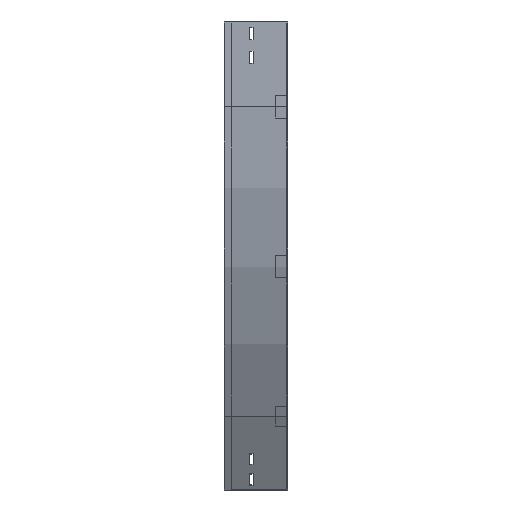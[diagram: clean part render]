
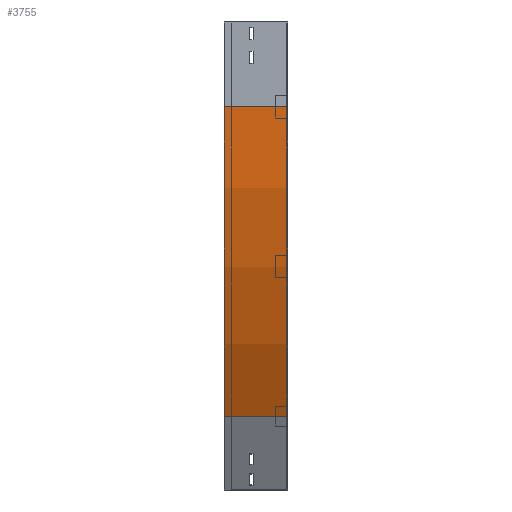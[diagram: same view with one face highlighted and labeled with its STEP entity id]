
A CAD part, left-side view. The second image highlights one B-rep face of the part: STEP entity #3755.
In plain terms, the highlighted cylindrical face has radius 1100 mm (diameter 2200 mm), a partial arc.
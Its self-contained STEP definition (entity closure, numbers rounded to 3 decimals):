
#142 = VECTOR ( 'NONE', #2936, 1000. ) ;
#579 = DIRECTION ( 'NONE',  ( 0., -1., 0. ) ) ;
#776 = CARTESIAN_POINT ( 'NONE',  ( 147.372, 112.5, -700. ) ) ;
#782 = CYLINDRICAL_SURFACE ( 'NONE', #3033, 1100. ) ;
#877 = CARTESIAN_POINT ( 'NONE',  ( 147.372, 0., -700. ) ) ;
#882 = EDGE_CURVE ( 'NONE', #3290, #3308, #2343, .T. ) ;
#1296 = VERTEX_POINT ( 'NONE', #776 ) ;
#1337 = EDGE_CURVE ( 'NONE', #3308, #1377, #1982, .T. ) ;
#1340 = ORIENTED_EDGE ( 'NONE', *, *, #2197, .T. ) ;
#1367 = LINE ( 'NONE', #3794, #142 ) ;
#1377 = VERTEX_POINT ( 'NONE', #877 ) ;
#1439 = DIRECTION ( 'NONE',  ( 0., -1., 0. ) ) ;
#1566 = ORIENTED_EDGE ( 'NONE', *, *, #1337, .F. ) ;
#1700 = DIRECTION ( 'NONE',  ( -1., 0., 0. ) ) ;
#1845 = EDGE_LOOP ( 'NONE', ( #1566, #2975, #3279, #1340 ) ) ;
#1982 = CIRCLE ( 'NONE', #3402, 1100. ) ;
#2025 = CARTESIAN_POINT ( 'NONE',  ( 1100., 0., -150. ) ) ;
#2051 = DIRECTION ( 'NONE',  ( 0., -1., 0. ) ) ;
#2197 = EDGE_CURVE ( 'NONE', #1296, #1377, #1367, .T. ) ;
#2343 = LINE ( 'NONE', #2631, #2921 ) ;
#2345 = CARTESIAN_POINT ( 'NONE',  ( 1100., 0., -150. ) ) ;
#2393 = CIRCLE ( 'NONE', #2705, 1100. ) ;
#2631 = CARTESIAN_POINT ( 'NONE',  ( 0., 0., -150. ) ) ;
#2632 = FACE_OUTER_BOUND ( 'NONE', #1845, .T. ) ;
#2705 = AXIS2_PLACEMENT_3D ( 'NONE', #2866, #3701, #3150 ) ;
#2769 = EDGE_CURVE ( 'NONE', #3290, #1296, #2393, .T. ) ;
#2866 = CARTESIAN_POINT ( 'NONE',  ( 1100., 112.5, -150. ) ) ;
#2898 = CARTESIAN_POINT ( 'NONE',  ( 0., 112.5, -150. ) ) ;
#2921 = VECTOR ( 'NONE', #579, 1000. ) ;
#2936 = DIRECTION ( 'NONE',  ( 0., -1., 0. ) ) ;
#2975 = ORIENTED_EDGE ( 'NONE', *, *, #882, .F. ) ;
#3033 = AXIS2_PLACEMENT_3D ( 'NONE', #2345, #2051, #3193 ) ;
#3150 = DIRECTION ( 'NONE',  ( -1., 0., 0. ) ) ;
#3193 = DIRECTION ( 'NONE',  ( 0., 0., -1. ) ) ;
#3279 = ORIENTED_EDGE ( 'NONE', *, *, #2769, .T. ) ;
#3290 = VERTEX_POINT ( 'NONE', #2898 ) ;
#3308 = VERTEX_POINT ( 'NONE', #3795 ) ;
#3402 = AXIS2_PLACEMENT_3D ( 'NONE', #2025, #1439, #1700 ) ;
#3701 = DIRECTION ( 'NONE',  ( 0., -1., 0. ) ) ;
#3755 = ADVANCED_FACE ( 'NONE', ( #2632 ), #782, .T. ) ;
#3794 = CARTESIAN_POINT ( 'NONE',  ( 147.372, 0., -700. ) ) ;
#3795 = CARTESIAN_POINT ( 'NONE',  ( 0., 0., -150. ) ) ;
